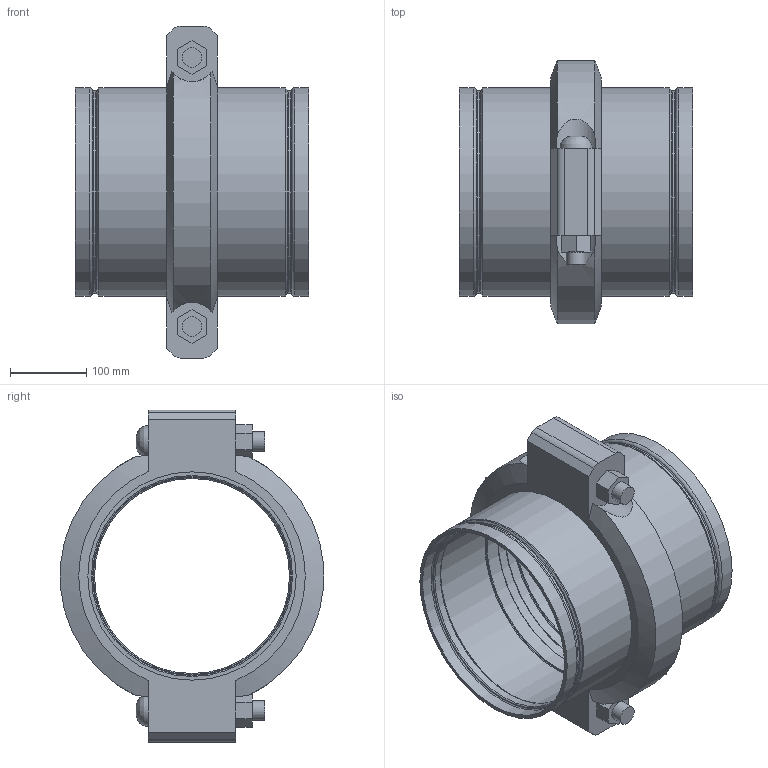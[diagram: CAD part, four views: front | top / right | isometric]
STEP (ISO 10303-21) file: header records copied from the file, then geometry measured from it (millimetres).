
FILE_DESCRIPTION(/* description */ ('VIC STRENGTHIN 100 EXPANSION JOINT 1 COUPLING COMPRESSED STYLE E155 (ST1)','CAx-IF Rec.Pracs.---Representation and Presentation of Product Manufacturing Information (PMI)---4.0---2014-10-13'),/* implementation_level */ '2;1');
FILE_NAME(/* name */ 'C:\Users\Vjadhav\AppData\Roaming\Autodesk\ApplicationPlugins\Victaulic.Temp\A42\Victaulic_SS-StrengThin 100_Expansion Joint_Compressed_1 Coupling_Style E155 (ST1)_10 (250).stp',/* time_stamp */ '2021-07-23T12:24:32+06:00',/* author */ ('kkamble'),/* organization */ ('Victaulic'),/* preprocessor_version */ 'ST-DEVELOPER v17.2',/* originating_system */ 'Autodesk Inventor 2019',/* authorisation */ '');
FILE_SCHEMA (('AP242_MANAGED_MODEL_BASED_3D_ENGINEERING_MIM_LF { 1 0 10303 442 1 1 4 }'));
Length unit declared in the file: inch
Products named in the file (3): E155-10.0; E494G-10.0; 077-10.0
Assembly tree (3 placements, depth 2):
  E155-10.0
    E494G-10.0  x2
    077-10.0
Bounding box: 305.56 x 344.9 x 435.1 mm (x, y, z)
Volume: 4223808.7 mm3; surface area: 825463.5 mm2
Topology: 3 solids, 5 shells, 127 faces, 369 edges, 268 vertices
Faces by surface type: plane 48, cylinder 37, torus 32, cone 8, bspline 2
Full cylindrical faces by diameter (mm): 25.4 x4, 27.432 x2, 255.626 x2, 258.724 x2, 263.5 x6, 265.176 x2, 268.275 x2, 273.05 x7
Entity records: 3470 total; most frequent: CARTESIAN_POINT 757, DIRECTION 573, ORIENTED_EDGE 508, EDGE_CURVE 254, AXIS2_PLACEMENT_3D 243, VERTEX_POINT 181, CIRCLE 147, EDGE_LOOP 111
